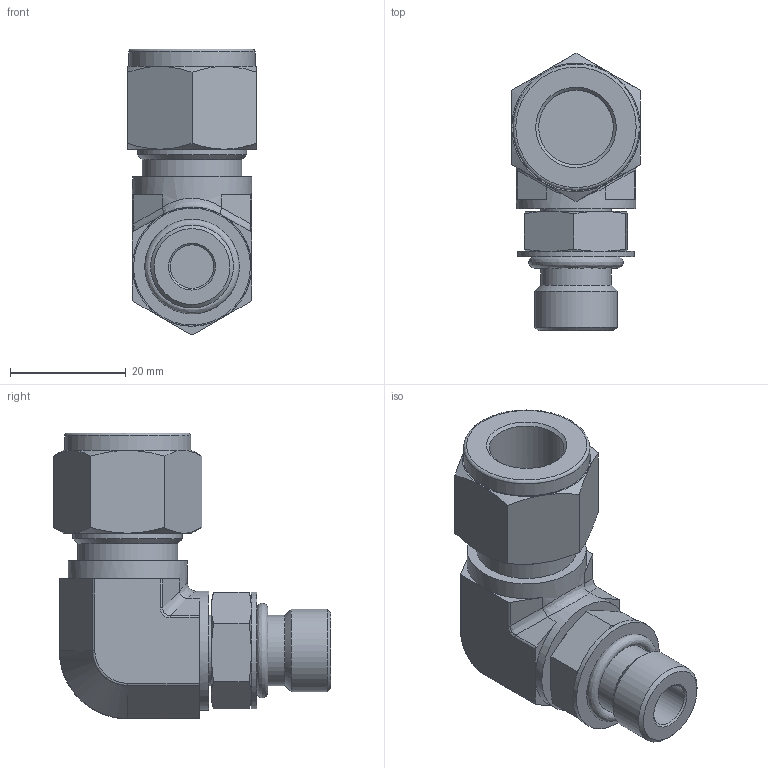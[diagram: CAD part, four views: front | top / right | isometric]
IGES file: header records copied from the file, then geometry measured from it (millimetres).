
Global section: file name: SPME-8-6U; native system: Autodesk Inventor 2016; preprocessor: unknown; author: DESIGNPC2; date: 20160115.110447; units: millimetre
Bounding box: 22.23 x 47.93 x 49.42 mm (x, y, z)
Volume: 19025.6 mm3; surface area: 8650 mm2
Topology: 4 solids, 4 shells, 127 faces, 313 edges, 202 vertices
Faces by surface type: bspline 127
